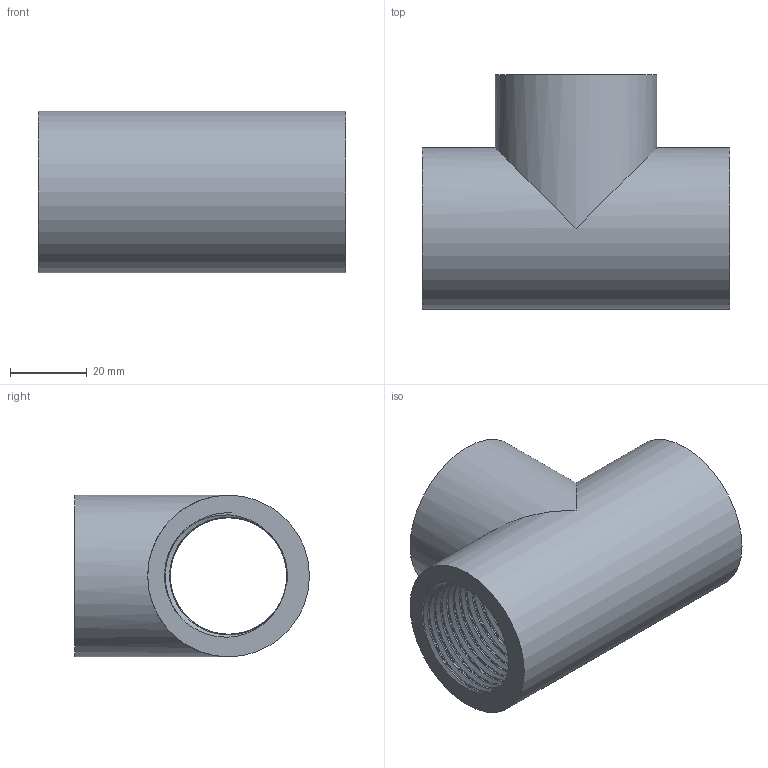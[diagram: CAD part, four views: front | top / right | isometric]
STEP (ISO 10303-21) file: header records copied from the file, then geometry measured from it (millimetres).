
FILE_DESCRIPTION(/* description */ ('(descrizione)'),/* implementation_level */ '2;1');
FILE_NAME(/* name */ 'C:\Users\POLYPIPE\Desktop\DATASET INVENTOR\LIBRERIA EFFAST\RACCORDI 3DxWEB\RER\3D_RERTIE\3D_RERTIE032D.stp',/* time_stamp */ '2018-01-19T17:20:38+01:00',/* author */ ('POLYPIPE'),/* organization */ ('Polypipe Italia s.r.l.'),/* preprocessor_version */ 'ST-DEVELOPER v16.1',/* originating_system */ 'Autodesk Inventor 2016',/* authorisation */ '');
FILE_SCHEMA (('CONFIG_CONTROL_DESIGN'));
Length unit declared in the file: millimetre
Products named in the file (1): 3D_RERTIE
Bounding box: 80 x 61 x 42 mm (x, y, z)
Volume: 59286.4 mm3; surface area: 28924.4 mm2
Topology: 1 solids, 1 shells, 25 faces, 70 edges, 46 vertices
Faces by surface type: bspline 15, plane 6, cylinder 4
Full cylindrical faces by diameter (mm): 30.291 x2, 42 x2
Entity records: 12185 total; most frequent: CARTESIAN_POINT 11668, ORIENTED_EDGE 116, DIRECTION 63, EDGE_CURVE 58, VERTEX_POINT 40, EDGE_LOOP 34, B_SPLINE_CURVE_WITH_KNOTS 33, AXIS2_PLACEMENT_3D 27
